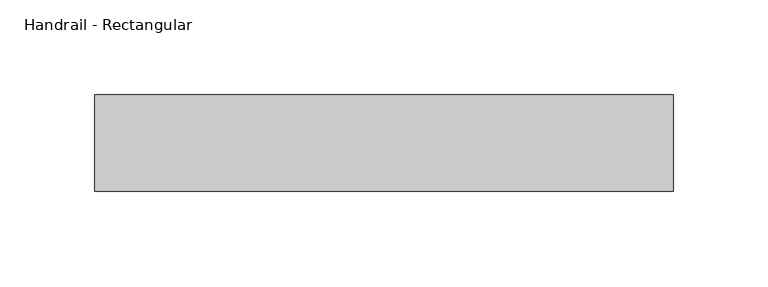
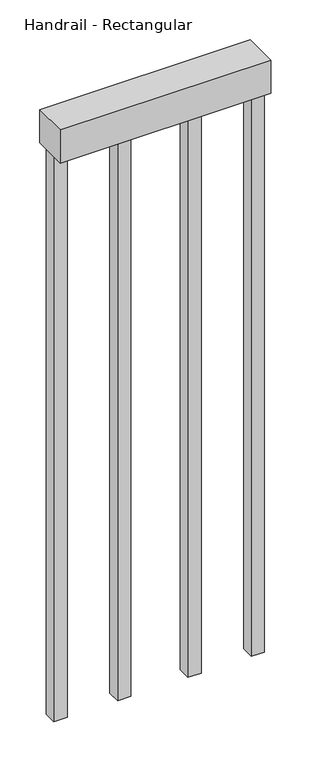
"""IFC4 building model written with IfcOpenShell, lengths in millimetres: railing geometry, Handrail - Rectangular."""

import ifcopenshell
import ifcopenshell.guid

model = None  # the IFC model being written
_history = None  # IfcOwnerHistory: only IFC2X3 demands one
_inside = {}  # id of a spatial element -> (the spatial element, [elements in it])
_under = {}  # id of a project, library or spatial element -> (it, [spatial elements below it])
_declared = {}  # id of a project -> (the project, [libraries it declares])
_typed = {}  # id of a type object -> (the type object, [elements of that type])
_made_of = {}  # id of a material, layer set ... -> (it, [elements and type objects made of it])


def new_model(schema):
    """Start an empty IFC model of exactly this schema.

    Asked for "IFC4X3", IfcOpenShell would pick the latest addendum, in which some entities
    have other attributes; the version numbers below select the first issue.
    IFC2X3 requires an IfcOwnerHistory on every rooted entity: one is made here for all.
    """
    global model, _history
    if schema == "IFC4X3":
        model = ifcopenshell.file(schema_version=(4, 3, 0, 0))
    else:
        model = ifcopenshell.file(schema=schema)
    _inside.clear()
    _under.clear()
    _declared.clear()
    _typed.clear()
    _made_of.clear()
    _history = None
    if model.schema == "IFC2X3":
        org = make("IfcOrganization", Name="unknown")
        user = make(
            "IfcPersonAndOrganization",
            ThePerson=make("IfcPerson", FamilyName="unknown"),
            TheOrganization=org,
        )
        app = make(
            "IfcApplication",
            ApplicationDeveloper=org,
            Version="unknown",
            ApplicationFullName="unknown",
            ApplicationIdentifier="unknown",
        )
        _history = make(
            "IfcOwnerHistory",
            OwningUser=user,
            OwningApplication=app,
            ChangeAction="ADDED",
            CreationDate=0,
        )
    return model


def make(cls, **values):
    """One entity of the class cls with the attributes given. An attribute that is None is left unset."""
    return model.create_entity(
        cls, **{name: value for name, value in values.items() if value is not None}
    )


def rooted(cls, **values):
    """An entity with a GlobalId (a new one), such as an element, a storey or a relation."""
    return make(cls, GlobalId=ifcopenshell.guid.new(), OwnerHistory=_history, **values)


def si_unit(unit_type, name, prefix=None):
    """IfcSIUnit, for example si_unit("LENGTHUNIT", "METRE", prefix="MILLI")."""
    return make("IfcSIUnit", UnitType=unit_type, Prefix=prefix, Name=name)


def assignment(units):
    """IfcUnitAssignment: the units of a project."""
    return None if units is None else make("IfcUnitAssignment", Units=units)


def point(xyz):
    """IfcCartesianPoint."""
    return None if xyz is None else make("IfcCartesianPoint", Coordinates=xyz)


def direction(xyz):
    """IfcDirection."""
    return None if xyz is None else make("IfcDirection", DirectionRatios=xyz)


def frame(location, z_axis=None, x_axis=None):
    """IfcAxis2Placement3D, a coordinate frame: its origin and axes. An axis left out is left unset."""
    return make(
        "IfcAxis2Placement3D",
        Location=point(location),
        Axis=direction(z_axis),
        RefDirection=direction(x_axis),
    )


def origin():
    """The frame at (0, 0, 0) with its axes left unset."""
    return frame((0.0, 0.0, 0.0))


def place(relative_to, where):
    """IfcLocalPlacement: puts the frame where relative to a parent placement (None: the world)."""
    return make(
        "IfcLocalPlacement", PlacementRelTo=relative_to, RelativePlacement=where
    )


def context(
    kind, dimensions, precision=None, world=None, true_north=None, identifier=None
):
    """IfcGeometricRepresentationContext, for example the 3D "Model" context."""
    return make(
        "IfcGeometricRepresentationContext",
        ContextIdentifier=identifier,
        ContextType=kind,
        CoordinateSpaceDimension=dimensions,
        Precision=precision,
        WorldCoordinateSystem=world,
        TrueNorth=true_north,
    )


def project(units=None, contexts=None):
    """IfcProject with its units and contexts."""
    return rooted(
        "IfcProject",
        Name="project",
        RepresentationContexts=contexts,
        UnitsInContext=assignment(units),
    )


def spatial(cls, under=None, at=None, **own):
    """A site, building, storey or space (cls), placed at a placement, below another one or the project."""
    s = rooted(cls, ObjectPlacement=at, **own)
    if under is not None:
        _under.setdefault(under.id(), (under, []))[1].append(s)
    return s


def polyline(points):
    """IfcPolyline through the points."""
    return make("IfcPolyline", Points=[point(p) for p in points])


def outline(outer, holes=None, kind="AREA"):
    """IfcArbitraryClosedProfileDef: a profile drawn as a closed curve; with holes, ...WithVoids."""
    if holes is None:
        return make("IfcArbitraryClosedProfileDef", ProfileType=kind, OuterCurve=outer)
    return make(
        "IfcArbitraryProfileDefWithVoids",
        ProfileType=kind,
        OuterCurve=outer,
        InnerCurves=holes,
    )


def extrude(swept, where, along, depth):
    """IfcExtrudedAreaSolid: the profile swept, set in the frame where, extruded along a direction by depth."""
    return make(
        "IfcExtrudedAreaSolid",
        SweptArea=swept,
        Position=where,
        ExtrudedDirection=direction(along),
        Depth=depth,
    )


def shape(context_of_items, identifier, shape_type, items):
    """IfcShapeRepresentation: the items that make up one representation, for example the "Body"."""
    return make(
        "IfcShapeRepresentation",
        ContextOfItems=context_of_items,
        RepresentationIdentifier=identifier,
        RepresentationType=shape_type,
        Items=items,
    )


def source(mapping_origin, context_of_items, identifier, shape_type, items):
    """IfcRepresentationMap: a shape defined once, which mapped items show again and again."""
    return make(
        "IfcRepresentationMap",
        MappingOrigin=mapping_origin,
        MappedRepresentation=shape(context_of_items, identifier, shape_type, items),
    )


def transform(
    local_origin,
    x_axis=None,
    y_axis=None,
    z_axis=None,
    scale=None,
    scale2=None,
    scale3=None,
    uniform=True,
):
    """IfcCartesianTransformationOperator3D, or its non-uniform kind. x_axis, y_axis, z_axis: its Axis1, 2, 3."""
    if uniform:
        return make(
            "IfcCartesianTransformationOperator3D",
            Axis1=direction(x_axis),
            Axis2=direction(y_axis),
            LocalOrigin=point(local_origin),
            Scale=scale,
            Axis3=direction(z_axis),
        )
    return make(
        "IfcCartesianTransformationOperator3DnonUniform",
        Axis1=direction(x_axis),
        Axis2=direction(y_axis),
        LocalOrigin=point(local_origin),
        Scale=scale,
        Axis3=direction(z_axis),
        Scale2=scale2,
        Scale3=scale3,
    )


def mapped(mapping_source, mapping_target):
    """IfcMappedItem: shows the shape of a source again, moved by a transform."""
    return make(
        "IfcMappedItem", MappingSource=mapping_source, MappingTarget=mapping_target
    )


def made_of(thing, what):
    """Note that an element or type object is made of a material, layer set ...; save() writes the relation."""
    if what is not None:
        _made_of.setdefault(what.id(), (what, []))[1].append(thing)
    return thing


def element(
    cls,
    number,
    at=None,
    inside=None,
    cuts=None,
    type_object=None,
    material=None,
    context=None,
    identifier="Body",
    shape_type=None,
    held_by="IfcProductDefinitionShape",
    body=None,
    shapes=None,
    **own,
):
    """One element of the class cls, such as IfcWall. Its Tag is "e" and its number.

    at: its placement. inside: the storey or other place that contains it. cuts: it is an
    opening in that element (IfcRelVoidsElement). A single representation is given by context,
    identifier, shape_type and body (its items); several are given by shapes. held_by: the class
    of the entity that holds the representations. save() writes the other relations.
    """
    e = rooted(cls, Tag="e%d" % number, ObjectPlacement=at, **own)
    if body is not None:
        shapes = [shape(context, identifier, shape_type, body)]
    if shapes is not None:
        e.Representation = make(held_by, Representations=shapes)
    if inside is not None:
        _inside.setdefault(inside.id(), (inside, []))[1].append(e)
    if cuts is not None:
        rooted(
            "IfcRelVoidsElement", RelatingBuildingElement=cuts, RelatedOpeningElement=e
        )
    if type_object is not None:
        _typed.setdefault(type_object.id(), (type_object, []))[1].append(e)
    return made_of(e, material)


def aggregate(whole, parts):
    """IfcRelAggregates: a whole, such as a stair, and the parts it consists of."""
    return rooted("IfcRelAggregates", RelatingObject=whole, RelatedObjects=parts)


def save(model, path):
    """Write the relations noted so far, then the file.

    IfcRelAggregates (storeys below a building ...), IfcRelContainedInSpatialStructure (elements
    in a storey), IfcRelDefinesByType, IfcRelAssociatesMaterial and IfcRelDeclares: one each for
    every whole, place, type object, material and project.
    """
    for whole, parts in _under.values():
        aggregate(whole, parts)
    for where, things in _inside.values():
        rooted(
            "IfcRelContainedInSpatialStructure",
            RelatedElements=things,
            RelatingStructure=where,
        )
    for kind, things in _typed.values():
        rooted("IfcRelDefinesByType", RelatedObjects=things, RelatingType=kind)
    for what, things in _made_of.values():
        rooted("IfcRelAssociatesMaterial", RelatedObjects=things, RelatingMaterial=what)
    for by, libraries in _declared.values():
        rooted("IfcRelDeclares", RelatingContext=by, RelatedDefinitions=libraries)
    model.write(path)


def handrail_rectangular_7b67c339(model_context):
    return source(origin(), model_context, "Body", "SweptSolid", [
        extrude(outline(polyline([(92954.1951063, 8101.1763375), (92954.1951063, 8151.9763375), (93258.5894926, 8151.9763375), (93258.5894926, 8101.1763375), (92954.1951063, 8101.1763375)])), frame((0.0, 0.0, 4292.6), z_axis=(0.0, 0.0, 1.0), x_axis=(1.0, 0.0, 0.0)), (0.0, 0.0, 1.0), 50.8),
        extrude(outline(polyline([(93147.8701063, 8117.0513375), (93147.8701063, 8136.1013375), (93166.9201063, 8136.1013375), (93166.9201063, 8117.0513375), (93147.8701063, 8117.0513375)])), frame((0.0, 0.0, 3429.0), z_axis=(0.0, 0.0, 1.0), x_axis=(1.0, 0.0, 0.0)), (0.0, 0.0, 1.0), 863.6),
        extrude(outline(polyline([(93046.2701063, 8117.0513375), (93046.2701063, 8136.1013375), (93065.3201063, 8136.1013375), (93065.3201063, 8117.0513375), (93046.2701063, 8117.0513375)])), frame((0.0, 0.0, 3429.0), z_axis=(0.0, 0.0, 1.0), x_axis=(1.0, 0.0, 0.0)), (0.0, 0.0, 1.0), 863.6),
        extrude(outline(polyline([(93239.5394926, 8117.0513375), (93239.5394926, 8136.1013375), (93258.5894926, 8136.1013375), (93258.5894926, 8117.0513375), (93239.5394926, 8117.0513375)])), frame((0.0, 0.0, 3429.0), z_axis=(0.0, 0.0, 1.0), x_axis=(1.0, 0.0, 0.0)), (0.0, 0.0, 1.0), 863.6),
        extrude(outline(polyline([(92954.1951063, 8117.0513375), (92954.1951063, 8136.1013375), (92973.2451063, 8136.1013375), (92973.2451063, 8117.0513375), (92954.1951063, 8117.0513375)])), frame((0.0, 0.0, 3429.0), z_axis=(0.0, 0.0, 1.0), x_axis=(1.0, 0.0, 0.0)), (0.0, 0.0, 1.0), 863.6),
    ])


if __name__ == "__main__":
    model = new_model("IFC4")
    model_context = context("Model", 3, world=origin())
    ifc_project = project(units=[si_unit("LENGTHUNIT", "METRE", prefix="MILLI")], contexts=[model_context])
    site = spatial("IfcSite", under=ifc_project)
    building = spatial("IfcBuilding", under=site)
    placement = place(None, origin())
    handrail_rectangular_shape = handrail_rectangular_7b67c339(model_context)
    element("IfcRailing", 1, ObjectType="Handrail - Rectangular", at=placement, inside=building, context=model_context, shape_type="MappedRepresentation", body=[
        mapped(handrail_rectangular_shape, transform((0.0, 0.0, 0.0), x_axis=(1.0, 0.0, 0.0), y_axis=(0.0, 1.0, 0.0), z_axis=(0.0, 0.0, 1.0))),
    ])
    save(model, "model.ifc")
